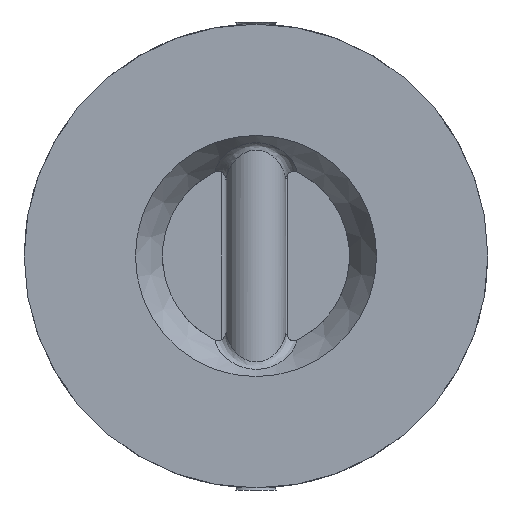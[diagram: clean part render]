
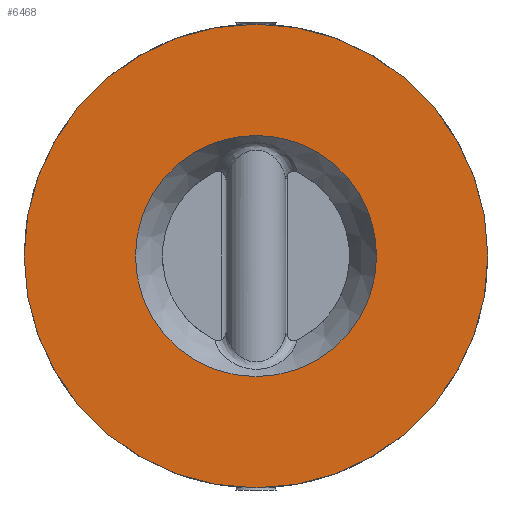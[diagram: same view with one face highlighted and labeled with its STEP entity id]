
A CAD part, front view. The second image highlights one B-rep face of the part: STEP entity #6468.
In plain terms, the highlighted planar face has unit normal (0, -1, 0).
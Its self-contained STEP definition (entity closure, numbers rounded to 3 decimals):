
#243=PLANE('',#6931);
#369=FACE_BOUND('',#1190,.T.);
#764=FACE_OUTER_BOUND('',#1189,.T.);
#1189=EDGE_LOOP('',(#4360));
#1190=EDGE_LOOP('',(#4361));
#2383=CIRCLE('',#6909,54.5);
#2390=CIRCLE('',#6919,28.351);
#2679=VERTEX_POINT('',#9558);
#2709=VERTEX_POINT('',#9991);
#3261=EDGE_CURVE('',#2679,#2679,#2383,.T.);
#3296=EDGE_CURVE('',#2709,#2709,#2390,.T.);
#4360=ORIENTED_EDGE('',*,*,#3261,.T.);
#4361=ORIENTED_EDGE('',*,*,#3296,.T.);
#6468=ADVANCED_FACE('',(#764,#369),#243,.T.);
#6909=AXIS2_PLACEMENT_3D('',#9559,#7573,#7574);
#6919=AXIS2_PLACEMENT_3D('',#9993,#7603,#7604);
#6931=AXIS2_PLACEMENT_3D('',#14040,#7634,#7635);
#7573=DIRECTION('center_axis',(0.,-1.,0.));
#7574=DIRECTION('ref_axis',(0.,0.,-1.));
#7603=DIRECTION('center_axis',(0.,1.,0.));
#7604=DIRECTION('ref_axis',(0.,0.,-1.));
#7634=DIRECTION('center_axis',(0.,-1.,0.));
#7635=DIRECTION('ref_axis',(0.,0.,-1.));
#9558=CARTESIAN_POINT('',(0.,0.,54.5));
#9559=CARTESIAN_POINT('Origin',(0.,0.,0.));
#9991=CARTESIAN_POINT('',(0.,0.,28.351));
#9993=CARTESIAN_POINT('Origin',(0.,0.,0.));
#14040=CARTESIAN_POINT('Origin',(0.,0.,0.));
